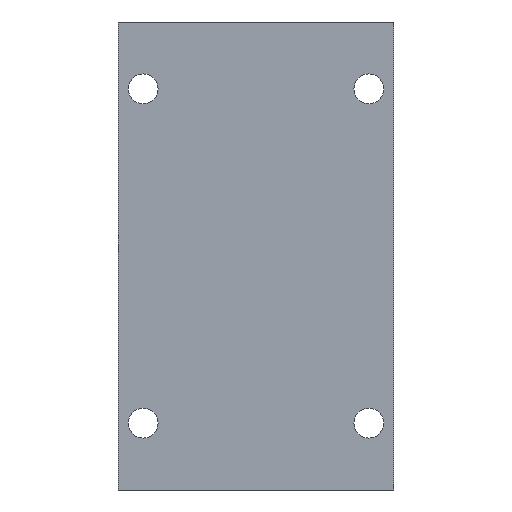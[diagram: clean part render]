
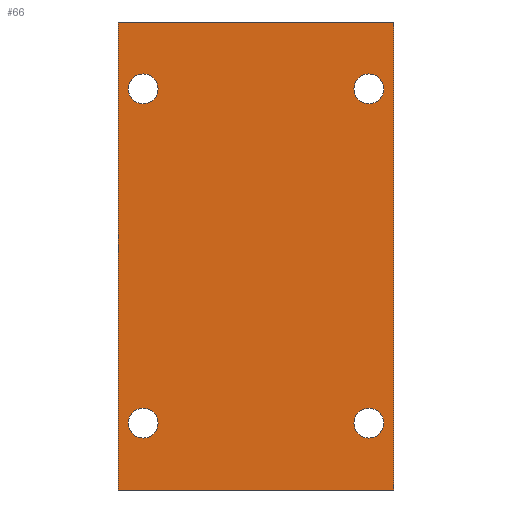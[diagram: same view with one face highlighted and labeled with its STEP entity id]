
A CAD part, front view. The second image highlights one B-rep face of the part: STEP entity #66.
In plain terms, the highlighted planar face has unit normal (0, -1, 0).
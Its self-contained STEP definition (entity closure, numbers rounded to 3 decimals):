
#66 = ADVANCED_FACE ( 'NONE', ( #2409, #1435, #1207, #1030, #133 ), #193, .F. ) ;
#78 = VERTEX_POINT ( 'NONE', #166 ) ;
#128 = CIRCLE ( 'NONE', #2470, 7.125 ) ;
#133 = FACE_BOUND ( 'NONE', #2599, .T. ) ;
#165 = VERTEX_POINT ( 'NONE', #2549 ) ;
#166 = CARTESIAN_POINT ( 'NONE',  ( -54., -44., -87.125 ) ) ;
#189 = DIRECTION ( 'NONE',  ( 0., 0., -1. ) ) ;
#193 = PLANE ( 'NONE',  #855 ) ;
#211 = ORIENTED_EDGE ( 'NONE', *, *, #2173, .F. ) ;
#213 = AXIS2_PLACEMENT_3D ( 'NONE', #2514, #1111, #644 ) ;
#237 = DIRECTION ( 'NONE',  ( 0., 0., -1. ) ) ;
#261 = EDGE_CURVE ( 'NONE', #78, #165, #1967, .T. ) ;
#272 = ORIENTED_EDGE ( 'NONE', *, *, #261, .F. ) ;
#294 = CARTESIAN_POINT ( 'NONE',  ( 66., -44., 112. ) ) ;
#295 = DIRECTION ( 'NONE',  ( 0., -1., 0. ) ) ;
#297 = VECTOR ( 'NONE', #1260, 1000. ) ;
#363 = DIRECTION ( 'NONE',  ( 0., 0., -1. ) ) ;
#430 = CARTESIAN_POINT ( 'NONE',  ( 54., -44., 80. ) ) ;
#467 = EDGE_CURVE ( 'NONE', #1936, #2003, #2186, .T. ) ;
#480 = AXIS2_PLACEMENT_3D ( 'NONE', #2149, #295, #1133 ) ;
#531 = CARTESIAN_POINT ( 'NONE',  ( -54., -44., -80. ) ) ;
#536 = ORIENTED_EDGE ( 'NONE', *, *, #467, .F. ) ;
#550 = ORIENTED_EDGE ( 'NONE', *, *, #725, .T. ) ;
#566 = AXIS2_PLACEMENT_3D ( 'NONE', #997, #813, #2473 ) ;
#602 = CARTESIAN_POINT ( 'NONE',  ( -66., -44., -112. ) ) ;
#644 = DIRECTION ( 'NONE',  ( 0., 0., -1. ) ) ;
#683 = LINE ( 'NONE', #294, #2462 ) ;
#711 = EDGE_LOOP ( 'NONE', ( #1775, #2031 ) ) ;
#725 = EDGE_CURVE ( 'NONE', #1592, #970, #1247, .T. ) ;
#750 = ORIENTED_EDGE ( 'NONE', *, *, #2475, .T. ) ;
#755 = DIRECTION ( 'NONE',  ( 0., -1., 0. ) ) ;
#781 = CARTESIAN_POINT ( 'NONE',  ( 54., -44., -87.125 ) ) ;
#813 = DIRECTION ( 'NONE',  ( 0., -1., 0. ) ) ;
#827 = CARTESIAN_POINT ( 'NONE',  ( 54., -44., -80. ) ) ;
#840 = DIRECTION ( 'NONE',  ( 0., -1., 0. ) ) ;
#855 = AXIS2_PLACEMENT_3D ( 'NONE', #976, #2026, #2248 ) ;
#911 = CARTESIAN_POINT ( 'NONE',  ( -54., -44., -80. ) ) ;
#917 = CIRCLE ( 'NONE', #480, 7.125 ) ;
#946 = EDGE_CURVE ( 'NONE', #1810, #970, #683, .T. ) ;
#956 = ORIENTED_EDGE ( 'NONE', *, *, #1482, .F. ) ;
#967 = DIRECTION ( 'NONE',  ( 0., 0., -1. ) ) ;
#970 = VERTEX_POINT ( 'NONE', #1902 ) ;
#972 = VERTEX_POINT ( 'NONE', #1286 ) ;
#973 = CARTESIAN_POINT ( 'NONE',  ( -66., -44., 112. ) ) ;
#974 = CARTESIAN_POINT ( 'NONE',  ( -66., -44., -112. ) ) ;
#976 = CARTESIAN_POINT ( 'NONE',  ( -66., -44., 112. ) ) ;
#997 = CARTESIAN_POINT ( 'NONE',  ( -54., -44., 80. ) ) ;
#1000 = EDGE_CURVE ( 'NONE', #2498, #1810, #1132, .T. ) ;
#1030 = FACE_BOUND ( 'NONE', #2297, .T. ) ;
#1053 = VERTEX_POINT ( 'NONE', #2406 ) ;
#1056 = CARTESIAN_POINT ( 'NONE',  ( -54., -44., 72.875 ) ) ;
#1092 = CIRCLE ( 'NONE', #1653, 7.125 ) ;
#1111 = DIRECTION ( 'NONE',  ( 0., -1., 0. ) ) ;
#1132 = LINE ( 'NONE', #973, #2593 ) ;
#1133 = DIRECTION ( 'NONE',  ( 0., 0., -1. ) ) ;
#1140 = EDGE_LOOP ( 'NONE', ( #550, #2563, #1199, #750 ) ) ;
#1162 = VERTEX_POINT ( 'NONE', #1056 ) ;
#1168 = CARTESIAN_POINT ( 'NONE',  ( -54., -44., 80. ) ) ;
#1178 = CIRCLE ( 'NONE', #566, 7.125 ) ;
#1182 = VECTOR ( 'NONE', #363, 1000. ) ;
#1199 = ORIENTED_EDGE ( 'NONE', *, *, #1000, .F. ) ;
#1207 = FACE_OUTER_BOUND ( 'NONE', #1140, .T. ) ;
#1247 = LINE ( 'NONE', #602, #297 ) ;
#1260 = DIRECTION ( 'NONE',  ( 1., 0., 0. ) ) ;
#1286 = CARTESIAN_POINT ( 'NONE',  ( -54., -44., 87.125 ) ) ;
#1405 = DIRECTION ( 'NONE',  ( 1., 0., 0. ) ) ;
#1435 = FACE_BOUND ( 'NONE', #1836, .T. ) ;
#1482 = EDGE_CURVE ( 'NONE', #165, #78, #2377, .T. ) ;
#1556 = EDGE_CURVE ( 'NONE', #1053, #2421, #917, .T. ) ;
#1588 = CARTESIAN_POINT ( 'NONE',  ( 66., -44., 112. ) ) ;
#1592 = VERTEX_POINT ( 'NONE', #974 ) ;
#1600 = DIRECTION ( 'NONE',  ( 0., 0., -1. ) ) ;
#1642 = EDGE_CURVE ( 'NONE', #2421, #1053, #128, .T. ) ;
#1653 = AXIS2_PLACEMENT_3D ( 'NONE', #1168, #2596, #967 ) ;
#1740 = DIRECTION ( 'NONE',  ( 0., 0., -1. ) ) ;
#1758 = ORIENTED_EDGE ( 'NONE', *, *, #2099, .F. ) ;
#1775 = ORIENTED_EDGE ( 'NONE', *, *, #1556, .F. ) ;
#1810 = VERTEX_POINT ( 'NONE', #1588 ) ;
#1818 = CARTESIAN_POINT ( 'NONE',  ( -66., -44., 112. ) ) ;
#1831 = CARTESIAN_POINT ( 'NONE',  ( 54., -44., -72.875 ) ) ;
#1836 = EDGE_LOOP ( 'NONE', ( #2347, #536 ) ) ;
#1890 = CARTESIAN_POINT ( 'NONE',  ( -66., -44., 112. ) ) ;
#1902 = CARTESIAN_POINT ( 'NONE',  ( 66., -44., -112. ) ) ;
#1906 = CIRCLE ( 'NONE', #213, 7.125 ) ;
#1936 = VERTEX_POINT ( 'NONE', #1831 ) ;
#1966 = CARTESIAN_POINT ( 'NONE',  ( 54., -44., 87.125 ) ) ;
#1967 = CIRCLE ( 'NONE', #2183, 7.125 ) ;
#2003 = VERTEX_POINT ( 'NONE', #781 ) ;
#2026 = DIRECTION ( 'NONE',  ( 0., 1., 0. ) ) ;
#2031 = ORIENTED_EDGE ( 'NONE', *, *, #1642, .F. ) ;
#2045 = AXIS2_PLACEMENT_3D ( 'NONE', #911, #2179, #1740 ) ;
#2099 = EDGE_CURVE ( 'NONE', #1162, #972, #1092, .T. ) ;
#2105 = DIRECTION ( 'NONE',  ( 0., -1., 0. ) ) ;
#2109 = DIRECTION ( 'NONE',  ( 0., 0., -1. ) ) ;
#2149 = CARTESIAN_POINT ( 'NONE',  ( 54., -44., 80. ) ) ;
#2173 = EDGE_CURVE ( 'NONE', #972, #1162, #1178, .T. ) ;
#2179 = DIRECTION ( 'NONE',  ( 0., -1., 0. ) ) ;
#2183 = AXIS2_PLACEMENT_3D ( 'NONE', #531, #755, #1600 ) ;
#2186 = CIRCLE ( 'NONE', #2574, 7.125 ) ;
#2248 = DIRECTION ( 'NONE',  ( 0., 0., 1. ) ) ;
#2285 = LINE ( 'NONE', #1818, #1182 ) ;
#2297 = EDGE_LOOP ( 'NONE', ( #1758, #211 ) ) ;
#2345 = EDGE_CURVE ( 'NONE', #2003, #1936, #1906, .T. ) ;
#2347 = ORIENTED_EDGE ( 'NONE', *, *, #2345, .F. ) ;
#2377 = CIRCLE ( 'NONE', #2045, 7.125 ) ;
#2406 = CARTESIAN_POINT ( 'NONE',  ( 54., -44., 72.875 ) ) ;
#2409 = FACE_BOUND ( 'NONE', #711, .T. ) ;
#2421 = VERTEX_POINT ( 'NONE', #1966 ) ;
#2462 = VECTOR ( 'NONE', #2109, 1000. ) ;
#2470 = AXIS2_PLACEMENT_3D ( 'NONE', #430, #2105, #237 ) ;
#2473 = DIRECTION ( 'NONE',  ( 0., 0., -1. ) ) ;
#2475 = EDGE_CURVE ( 'NONE', #2498, #1592, #2285, .T. ) ;
#2498 = VERTEX_POINT ( 'NONE', #1890 ) ;
#2514 = CARTESIAN_POINT ( 'NONE',  ( 54., -44., -80. ) ) ;
#2549 = CARTESIAN_POINT ( 'NONE',  ( -54., -44., -72.875 ) ) ;
#2563 = ORIENTED_EDGE ( 'NONE', *, *, #946, .F. ) ;
#2574 = AXIS2_PLACEMENT_3D ( 'NONE', #827, #840, #189 ) ;
#2593 = VECTOR ( 'NONE', #1405, 1000. ) ;
#2596 = DIRECTION ( 'NONE',  ( 0., -1., 0. ) ) ;
#2599 = EDGE_LOOP ( 'NONE', ( #272, #956 ) ) ;
